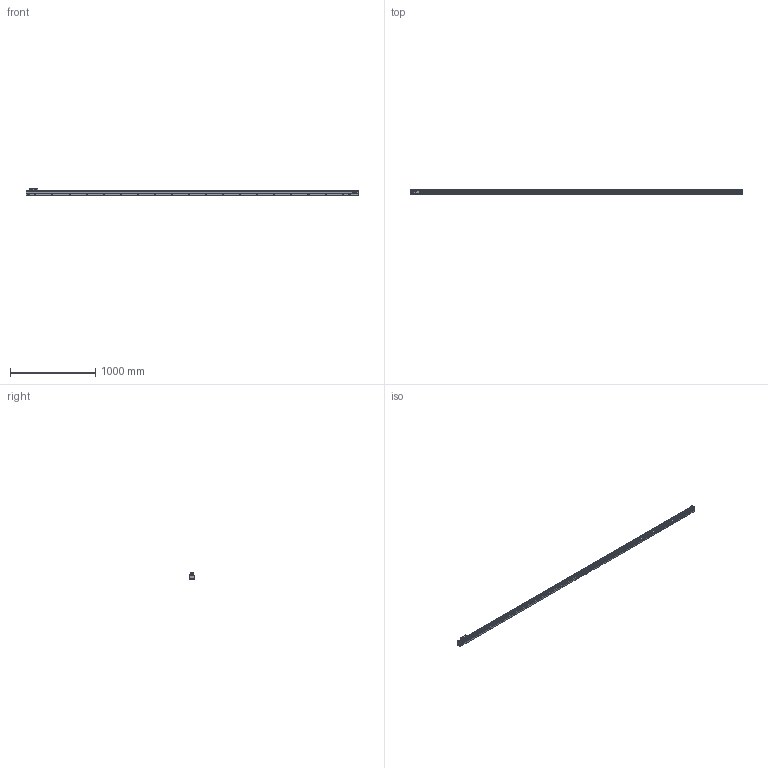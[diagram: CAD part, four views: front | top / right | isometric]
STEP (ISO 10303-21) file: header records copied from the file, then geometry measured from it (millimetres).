
FILE_DESCRIPTION(('Creo Elements/Direct Modeling STEP Export'),'2;1');
FILE_NAME('REGLA_L3_3640_M_T.stp','2020-12-16T10:32:59',(''),(''),'Creo Elements/Direct Modeling STEP processor for AP214 (Solid Model)','Creo Elements/Direct Modeling 19.0G 27-Nov-2017 (C) Parametric Technology GmbH','');
FILE_SCHEMA(('AUTOMOTIVE_DESIGN { 1 0 10303 214 1 1 1 1 }'));
Length unit declared in the file: millimetre
Products named in the file (3): CABEZA_L3_T; REGLA_L3_3640_M; REGLA_L3_3640_M_T
Assembly tree (2 placements, depth 2):
  REGLA_L3_3640_M_T
    REGLA_L3_3640_M
    CABEZA_L3_T
Bounding box: 3890 x 50 x 85 mm (x, y, z)
Volume: 10172870.5 mm3; surface area: 997659.4 mm2
Topology: 2 solids, 2 shells, 1651 faces, 4409 edges, 2834 vertices
Faces by surface type: plane 808, cylinder 509, cone 211, bspline 63, torus 52, extrusion 6, sphere 2
Entity records: 70437 total; most frequent: CARTESIAN_POINT 24512, ORIENTED_EDGE 8794, DIRECTION 7797, EDGE_CURVE 4397, VERTEX_POINT 2834, AXIS2_PLACEMENT_3D 2612, VECTOR 2573, LINE 2567
